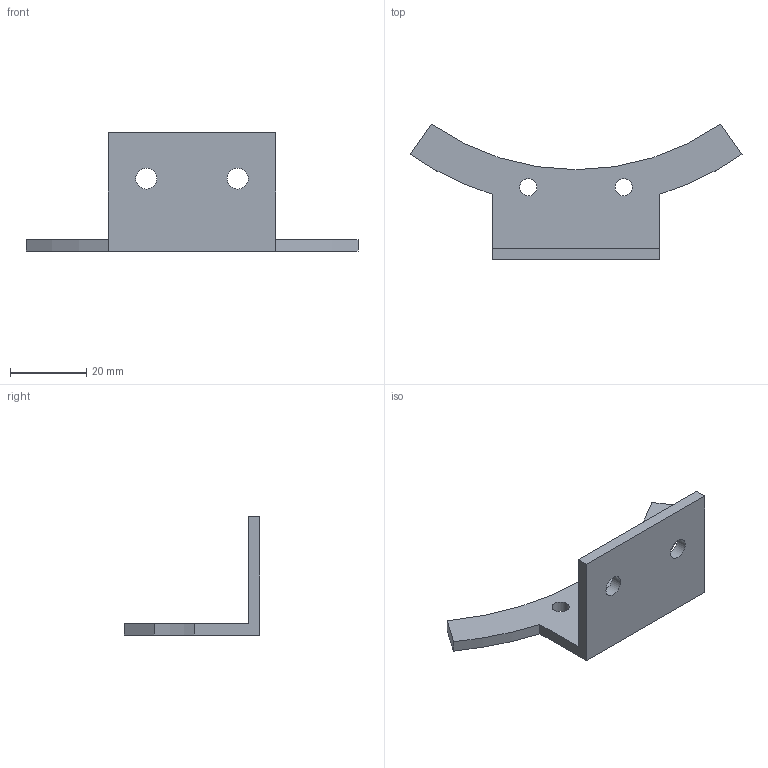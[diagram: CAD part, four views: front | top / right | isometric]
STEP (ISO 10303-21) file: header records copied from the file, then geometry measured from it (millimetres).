
FILE_DESCRIPTION(('Open CASCADE Model'),'2;1');
FILE_NAME('Open CASCADE Shape Model','2026-09-23T04:43:31',('Author'),( 'Open CASCADE'),'Open CASCADE STEP processor 7.9','Open CASCADE 7.9' ,'Unknown');
FILE_SCHEMA(('AUTOMOTIVE_DESIGN { 1 0 10303 214 1 1 1 1 }'));
Length unit declared in the file: millimetre
Products named in the file (1): Open CASCADE STEP translator 7.9 17
Bounding box: 87.18 x 35.69 x 30.99 mm (x, y, z)
Volume: 7976.2 mm3; surface area: 6355.2 mm2
Topology: 1 solids, 1 shells, 16 faces, 42 edges, 28 vertices
Faces by surface type: plane 9, cylinder 7
Full cylindrical faces by diameter (mm): 4.5 x2, 5.5 x2
Entity records: 1069 total; most frequent: CARTESIAN_POINT 210, DIRECTION 155, ORIENTED_EDGE 84, PCURVE 84, DEFINITIONAL_REPRESENTATION 84, LINE 83, VECTOR 83, EDGE_CURVE 42
